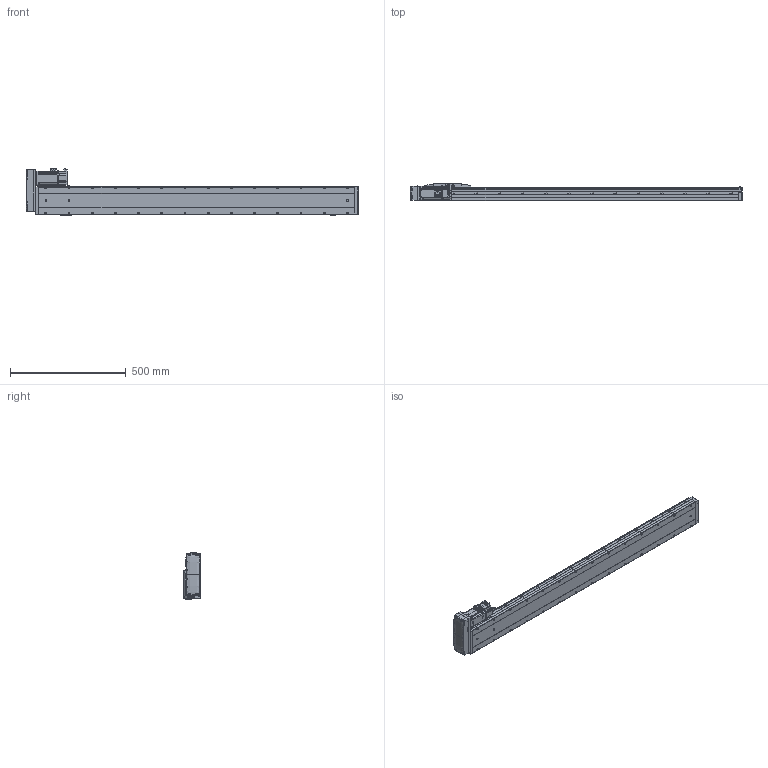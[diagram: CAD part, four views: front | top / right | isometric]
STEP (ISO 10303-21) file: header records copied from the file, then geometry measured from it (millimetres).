
FILE_DESCRIPTION (( 'STEP AP214' ), '1' );
FILE_NAME ('CTH12-L10-S1150-BL-C40（简）.STEP', '2023-02-06T03:14:26', ( '' ), ( '' ), 'SwSTEP 2.0', 'SolidWorks 2018', '' );
FILE_SCHEMA (( 'AUTOMOTIVE_DESIGN' ));
Length unit declared in the file: millimetre
Products named in the file (24): 400W萇儂; CTH12覜茼え; 湮賑怢  裔赽-1(CTH12)賑怢; 内六角圆柱头螺钉M3-1; CTH400W垫板（3个厚）; 内六角圆柱头螺钉M3-2; 蚐郲; PM-Y45; CTH12賑怢郪磁; CTH12-BL_body_4; CTH12底座-L1361简（1150行程）; CTH12; CTH12賑怢ㄗ潠ㄘ; 嫖萇羲壽郪磁2; 内六角圆柱头螺钉M3; CTH12侧装连接板（标准）简; hex nuts, style 1-grades ab gb_GB_FASTENER_NUT_SNAB1 M3-N; CTH12_body_3; 嫖萇羲壽郪磁1; CTH12-L10-S1150-BL-C40（简）; CTH400W假蚾啣; M5蹟隊; CTH嫖萇羲壽假蚾啣; CTH12耜蚾裔
Assembly tree (44 placements, depth 4):
  CTH12-L10-S1150-BL-C40（简）
    CTH12底座-L1361简（1150行程）
    蚐郲  x2
    CTH12_body_3
    CTH12-BL_body_4
    CTH12侧装连接板（标准）简
    CTH12耜蚾裔
    CTH12賑怢郪磁
      CTH12
        湮賑怢  裔赽-1(CTH12)賑怢
        CTH12賑怢ㄗ潠ㄘ
    CTH12覜茼え
    CTH400W垫板（3个厚）
    400W萇儂
    内六角圆柱头螺钉M3  x6
    M5蹟隊  x4
    嫖萇羲壽郪磁1
      CTH嫖萇羲壽假蚾啣
      PM-Y45
      内六角圆柱头螺钉M3-2  x2
      内六角圆柱头螺钉M3-1  x2
      hex nuts, style 1-grades ab gb_GB_FASTENER_NUT_SNAB1 M3-N  x2
    嫖萇羲壽郪磁2  x2
      CTH嫖萇羲壽假蚾啣
      PM-Y45
      内六角圆柱头螺钉M3-1
      内六角圆柱头螺钉M3-2
      hex nuts, style 1-grades ab gb_GB_FASTENER_NUT_SNAB1 M3-N
    CTH400W假蚾啣
Bounding box: 1431.5 x 76 x 205.26 mm (x, y, z)
Volume: 9464025.8 mm3; surface area: 868397.5 mm2
Topology: 47 solids, 48 shells, 3422 faces, 8557 edges, 5357 vertices
Faces by surface type: plane 1642, cylinder 971, cone 487, bspline 194, torus 124, sphere 4
Entity records: 113306 total; most frequent: CARTESIAN_POINT 41818, ORIENTED_EDGE 14216, DIRECTION 13490, EDGE_CURVE 7108, AXIS2_PLACEMENT_3D 4736, VERTEX_POINT 4461, VECTOR 4018, LINE 4018
